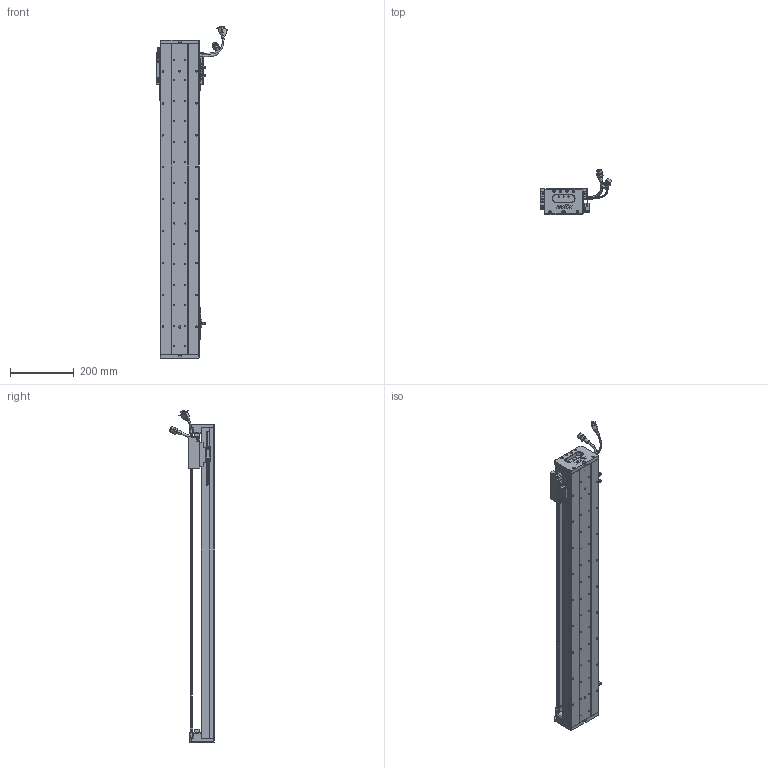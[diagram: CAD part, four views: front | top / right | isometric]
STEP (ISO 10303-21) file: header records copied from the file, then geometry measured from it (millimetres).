
FILE_DESCRIPTION (( 'STEP AP203' ), '1' );
FILE_NAME ('Z1-RY120D-1-L500-B-K.SLDASM_0800.step', '2021-05-17T03:45:30', ( '盈信电脑' ), ( '东莞市道滘镇水果街19号' ), 'SwSTEP 2.0', 'SolidWorks 2016', '' );
FILE_SCHEMA (( 'CONFIG_CONTROL_DESIGN' ));
Length unit declared in the file: millimetre
Products named in the file (37): Z1-RY120D-1-L500-B-K.SLDASM_0800; 672嫖萇羲壽假蚾釱; 140雄赽晤鎢ん堤盄; Z1-RY120铝滑块（21款）; SHIELDPLATE; COVER-Part-1; 榋妏寠巭燃_暯_M2_2; SCALE-Part-2; SEAL-Part-1; LABEL-Part-1; Z-RY120D詩湍奻揤裔; HOLDER0; HARNESS; RY100FB-遵嫖萇覜茼え; HARNESS-Part-2; SCREW-M1.6; Z-120詩湍傷裔啣; 120-Z-臏賑輸盄裔(21遴); SCREW-M1.7-1; SCALE; 覜茼ん672; PSLH080_PSLF2; Z1-RY120-500-倰第菁釱_0800; Z1-RY120-L500詩湍100mm遵_0800; 140蚥薯蝶輸; SCREW-M1.6-2; 080黍杅芛假蚾釱21遴; SCALE-Part-1; Z-RY120D詩湍狟揤裔; SEAL; LABEL; COVER; HARNESS-Part-1; SCREW-M1.7; PBU_SHEET; SCREW-M1.6-3; SCREW-M1.6-1
Assembly tree (43 placements, depth 4):
  Z1-RY120D-1-L500-B-K.SLDASM_0800
    Z1-RY120-500-倰第菁釱_0800
    覜茼ん672  x3
    672嫖萇羲壽假蚾釱  x2
    Z1-RY120铝滑块（21款）
    PSLH080_PSLF2
      SCALE
        SCALE-Part-1
        SCALE-Part-2
      HARNESS
        HARNESS-Part-1
        HARNESS-Part-2
      LABEL
        LABEL-Part-1
      COVER
        COVER-Part-1
      SEAL
        SEAL-Part-1
      榋妏寠巭燃_暯_M2_2
      SHIELDPLATE
      SCREW-M1.7
      SCREW-M1.7-1
      PBU_SHEET
      SCREW-M1.6
      SCREW-M1.6-1
      SCREW-M1.6-2
      SCREW-M1.6-3
      HOLDER0
    080黍杅芛假蚾釱21遴
    120-Z-臏賑輸盄裔(21遴)
    140雄赽晤鎢ん堤盄
    140蚥薯蝶輸  x2
    RY100FB-遵嫖萇覜茼え
    Z-120詩湍傷裔啣  x2
    Z-RY120D詩湍奻揤裔  x2
    Z-RY120D詩湍狟揤裔  x2
    Z1-RY120-L500詩湍100mm遵_0800
Bounding box: 222.88 x 140.94 x 1039 mm (x, y, z)
Volume: 2651719.7 mm3; surface area: 928914.5 mm2
Topology: 38 solids, 38 shells, 2685 faces, 7242 edges, 4576 vertices
Faces by surface type: cylinder 1198, plane 1103, cone 262, torus 69, bspline 53
Entity records: 79971 total; most frequent: CARTESIAN_POINT 21248, ORIENTED_EDGE 11484, DIRECTION 11288, EDGE_CURVE 5742, AXIS2_PLACEMENT_3D 4106, VERTEX_POINT 3696, LINE 3076, VECTOR 3076
